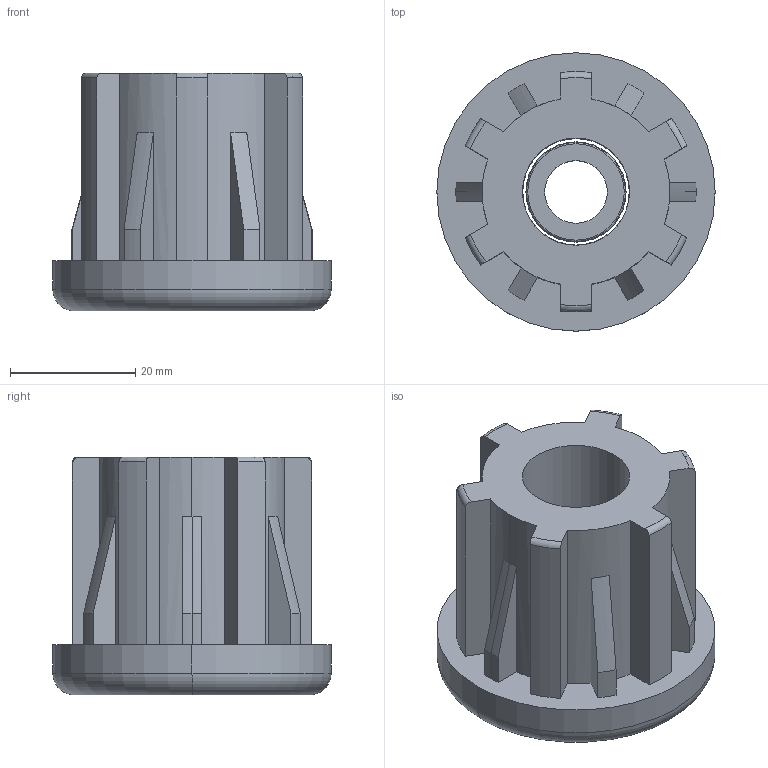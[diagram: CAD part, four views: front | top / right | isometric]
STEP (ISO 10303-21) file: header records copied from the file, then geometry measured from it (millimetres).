
FILE_DESCRIPTION (( 'STEP AP214' ), '1' );
FILE_NAME ('42006442210.STEP', '2020-02-25T17:04:53', ( '' ), ( '' ), 'SwSTEP 2.0', 'SolidWorks 2018', '' );
FILE_SCHEMA (( 'AUTOMOTIVE_DESIGN' ));
Length unit declared in the file: millimetre
Products named in the file (4): BC_M10.stp; 42006442210.stp; Disegno1.stp; 42006442210
Assembly tree (3 placements, depth 3):
  42006442210
    42006442210.stp
      Disegno1.stp
      BC_M10.stp
Bounding box: 44.45 x 44.45 x 38 mm (x, y, z)
Volume: 29648.5 mm3; surface area: 11636.1 mm2
Topology: 2 solids, 2 shells, 89 faces, 232 edges, 150 vertices
Faces by surface type: cylinder 36, plane 31, cone 12, torus 10
Entity records: 3036 total; most frequent: CARTESIAN_POINT 664, DIRECTION 500, ORIENTED_EDGE 464, EDGE_CURVE 232, AXIS2_PLACEMENT_3D 196, VERTEX_POINT 150, LINE 108, VECTOR 108
